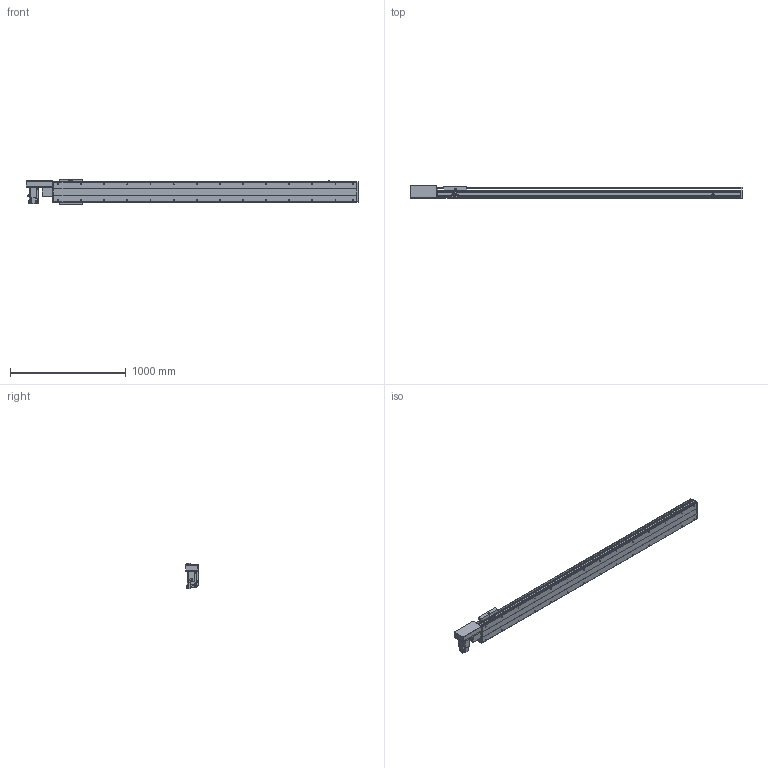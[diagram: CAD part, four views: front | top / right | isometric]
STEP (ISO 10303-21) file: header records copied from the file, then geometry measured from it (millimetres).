
FILE_DESCRIPTION(/* description */ ('STEP AP214'),/* implementation_level */ '2;1');
FILE_NAME(/* name */ 'PBS200-P40-S2250-R-T75-C1-N(0)',/* time_stamp */ '2022-06-11T08:10:14+02:00',/* author */ ('License CC BY-ND 4.0'),/* organization */ ('CADENAS'),/* preprocessor_version */ 'ST-DEVELOPER v18.102',/* originating_system */ 'PARTsolutions',/* authorisation */ ' ');
FILE_SCHEMA (('AUTOMOTIVE_DESIGN {1 0 10303 214 3 1 1}'));
Length unit declared in the file: millimetre
Products named in the file (7): PBS200-P40-S2250-R-T75-C1-N(0); PBS200_sensor; PBS200_plant; PBS200_sliser; T75-p1; PBS200T-R_motors; PBS200-S2250()_body
Assembly tree (8 placements, depth 2):
  PBS200-P40-S2250-R-T75-C1-N(0)
    PBS200_sensor  x3
    PBS200_plant
    PBS200_sliser
    T75-p1
    PBS200T-R_motors
    PBS200-S2250()_body
Bounding box: 2872 x 109 x 221 mm (x, y, z)
Volume: 19042941.2 mm3; surface area: 3050142.4 mm2
Topology: 8 solids, 8 shells, 956 faces, 2434 edges, 1584 vertices
Faces by surface type: plane 586, cylinder 310, cone 60
Full cylindrical faces by diameter (mm): 2.459 x6, 3.242 x4, 4.5 x6, 4.917 x4, 5 x6, 6 x7, 6.6 x8, 6.647 x32, 8 x6, 10 x4, 12 x8, 38 x2, 40 x1, 70 x1
Entity records: 25301 total; most frequent: DIRECTION 4471, CARTESIAN_POINT 4300, ORIENTED_EDGE 4054, EDGE_CURVE 2027, AXIS2_PLACEMENT_3D 1579, VERTEX_POINT 1408, LINE 1313, VECTOR 1313
